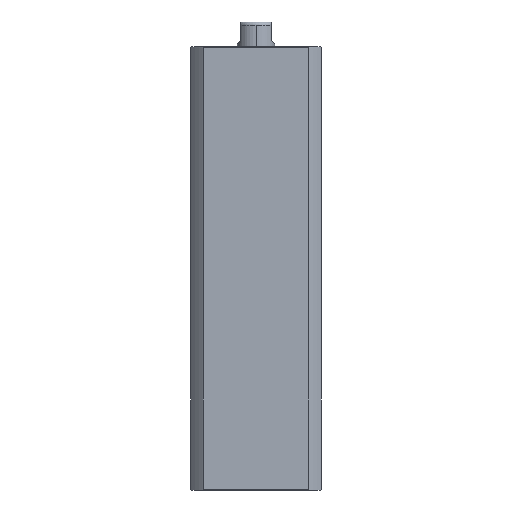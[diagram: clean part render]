
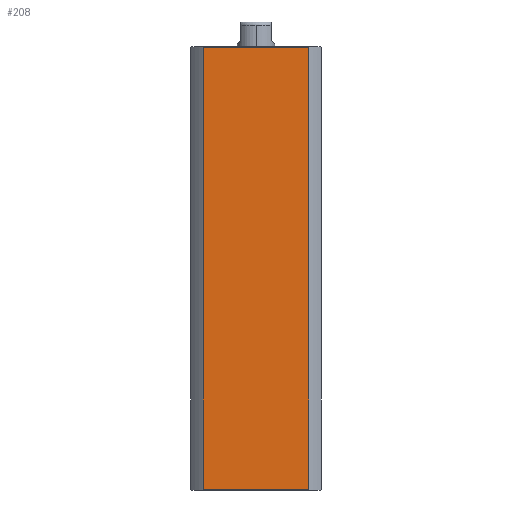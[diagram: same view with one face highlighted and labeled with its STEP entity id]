
A CAD part, left-side view. The second image highlights one B-rep face of the part: STEP entity #208.
In plain terms, the highlighted planar face has unit normal (-1, 0, 0).
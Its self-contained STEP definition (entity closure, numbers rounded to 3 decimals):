
#59 = LINE ( 'NONE', #5786, #2447 ) ;
#208 = ADVANCED_FACE ( 'NONE', ( #6663 ), #979, .F. ) ;
#259 = CARTESIAN_POINT ( 'NONE',  ( -21., 21., 143. ) ) ;
#306 = VERTEX_POINT ( 'NONE', #3214 ) ;
#979 = PLANE ( 'NONE',  #2820 ) ;
#1024 = DIRECTION ( 'NONE',  ( 1., 0., 0. ) ) ;
#1074 = DIRECTION ( 'NONE',  ( 0., 1., 0. ) ) ;
#2447 = VECTOR ( 'NONE', #11214, 1000. ) ;
#2820 = AXIS2_PLACEMENT_3D ( 'NONE', #259, #1024, #1074 ) ;
#2873 = LINE ( 'NONE', #9448, #5375 ) ;
#3214 = CARTESIAN_POINT ( 'NONE',  ( -21., -16.971, 0.3 ) ) ;
#4358 = CARTESIAN_POINT ( 'NONE',  ( -21., 16.971, 142.7 ) ) ;
#4775 = ORIENTED_EDGE ( 'NONE', *, *, #6553, .T. ) ;
#5375 = VECTOR ( 'NONE', #10372, 1000. ) ;
#5786 = CARTESIAN_POINT ( 'NONE',  ( -21., 21., 0.3 ) ) ;
#5806 = CARTESIAN_POINT ( 'NONE',  ( -21., 16.971, -457. ) ) ;
#5999 = EDGE_CURVE ( 'NONE', #6241, #306, #59, .T. ) ;
#6085 = VERTEX_POINT ( 'NONE', #10463 ) ;
#6241 = VERTEX_POINT ( 'NONE', #8896 ) ;
#6553 = EDGE_CURVE ( 'NONE', #6085, #10694, #2873, .T. ) ;
#6663 = FACE_OUTER_BOUND ( 'NONE', #10833, .T. ) ;
#6666 = LINE ( 'NONE', #5806, #11205 ) ;
#7268 = ORIENTED_EDGE ( 'NONE', *, *, #11259, .F. ) ;
#7517 = CARTESIAN_POINT ( 'NONE',  ( -21., -16.971, -457. ) ) ;
#8342 = DIRECTION ( 'NONE',  ( 0., 0., -1. ) ) ;
#8366 = LINE ( 'NONE', #7517, #10505 ) ;
#8559 = DIRECTION ( 'NONE',  ( 0., 0., 1. ) ) ;
#8896 = CARTESIAN_POINT ( 'NONE',  ( -21., 16.971, 0.3 ) ) ;
#9448 = CARTESIAN_POINT ( 'NONE',  ( -21., 21., 142.7 ) ) ;
#9677 = ORIENTED_EDGE ( 'NONE', *, *, #5999, .T. ) ;
#10372 = DIRECTION ( 'NONE',  ( 0., 1., 0. ) ) ;
#10463 = CARTESIAN_POINT ( 'NONE',  ( -21., -16.971, 142.7 ) ) ;
#10505 = VECTOR ( 'NONE', #8342, 1000. ) ;
#10694 = VERTEX_POINT ( 'NONE', #4358 ) ;
#10833 = EDGE_LOOP ( 'NONE', ( #12084, #9677, #7268, #4775 ) ) ;
#11205 = VECTOR ( 'NONE', #8559, 1000. ) ;
#11214 = DIRECTION ( 'NONE',  ( 0., -1., 0. ) ) ;
#11259 = EDGE_CURVE ( 'NONE', #6085, #306, #8366, .T. ) ;
#11936 = EDGE_CURVE ( 'NONE', #6241, #10694, #6666, .T. ) ;
#12084 = ORIENTED_EDGE ( 'NONE', *, *, #11936, .F. ) ;
